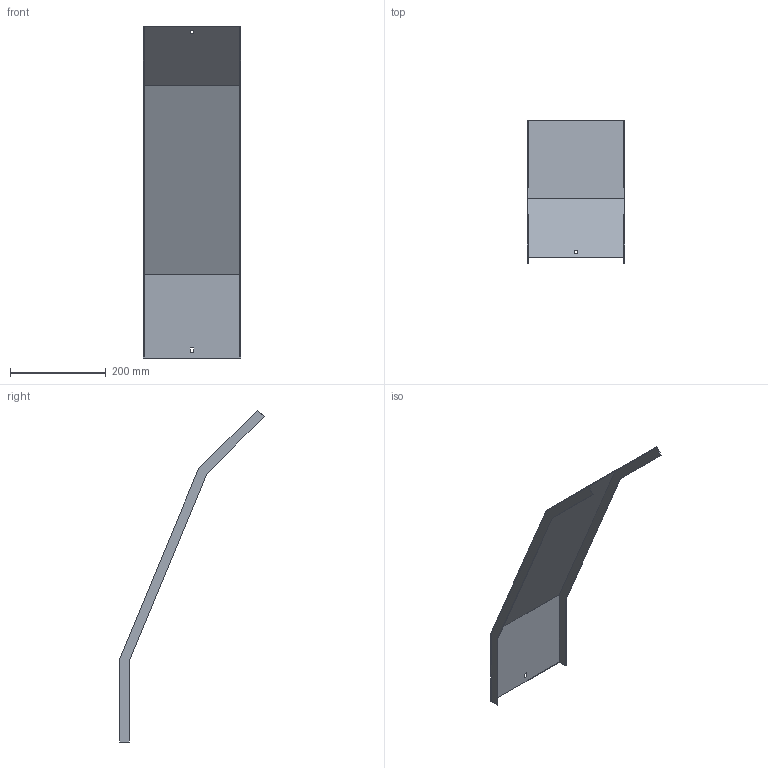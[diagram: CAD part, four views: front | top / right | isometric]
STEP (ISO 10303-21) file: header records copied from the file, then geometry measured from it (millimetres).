
FILE_DESCRIPTION (( 'STEP AP214' ), '1' );
FILE_NAME ('34N5D200.step', '2025-02-21T10:33:05', ( '' ), ( '' ), 'SwSTEP 2.0', 'SolidWorks 2023', '' );
FILE_SCHEMA (( 'AUTOMOTIVE_DESIGN' ));
Length unit declared in the file: millimetre
Products named in the file (1): 34N5D200
Bounding box: 203 x 301.7 x 694.23 mm (x, y, z)
Volume: 279216.8 mm3; surface area: 375389.8 mm2
Topology: 1 solids, 1 shells, 26 faces, 72 edges, 48 vertices
Faces by surface type: plane 26
Entity records: 847 total; most frequent: CARTESIAN_POINT 147, ORIENTED_EDGE 144, DIRECTION 126, VECTOR 72, EDGE_CURVE 72, LINE 72, VERTEX_POINT 48, EDGE_LOOP 30
